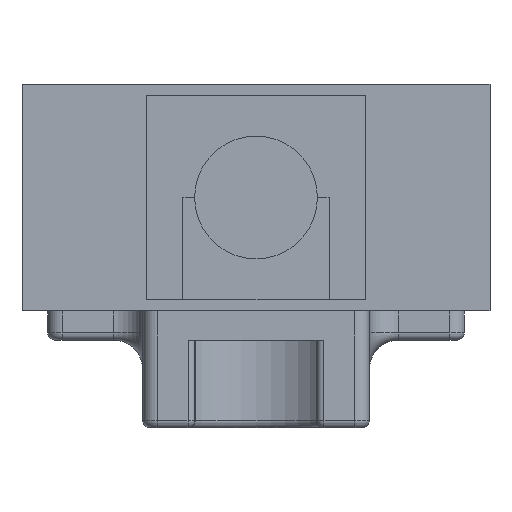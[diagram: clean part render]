
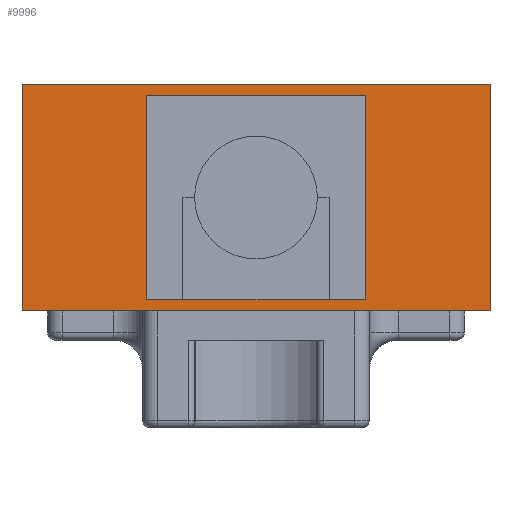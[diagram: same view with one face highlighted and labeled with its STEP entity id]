
A CAD part, front view. The second image highlights one B-rep face of the part: STEP entity #9996.
In plain terms, the highlighted planar face has unit normal (0, -1, 0).
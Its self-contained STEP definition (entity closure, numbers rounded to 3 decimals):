
#110 = LINE ( 'NONE', #2053, #718 ) ;
#172 = DIRECTION ( 'NONE',  ( 0., 0., 1. ) ) ;
#254 = DIRECTION ( 'NONE',  ( 1., 0., 0. ) ) ;
#430 = CARTESIAN_POINT ( 'NONE',  ( 16., -72.75, 7.75 ) ) ;
#718 = VECTOR ( 'NONE', #172, 1000. ) ;
#826 = CARTESIAN_POINT ( 'NONE',  ( -7., -72.75, 6.25 ) ) ;
#862 = VERTEX_POINT ( 'NONE', #8487 ) ;
#1070 = LINE ( 'NONE', #5583, #12573 ) ;
#1086 = VECTOR ( 'NONE', #254, 1000. ) ;
#1410 = VECTOR ( 'NONE', #8125, 1000. ) ;
#1792 = CARTESIAN_POINT ( 'NONE',  ( -7., -72.75, -6.25 ) ) ;
#2053 = CARTESIAN_POINT ( 'NONE',  ( 7., -72.75, 6.25 ) ) ;
#2126 = DIRECTION ( 'NONE',  ( -1., 0., 0. ) ) ;
#2973 = CARTESIAN_POINT ( 'NONE',  ( -7., -72.75, -6.25 ) ) ;
#3081 = EDGE_CURVE ( 'NONE', #9705, #11842, #10302, .T. ) ;
#3174 = LINE ( 'NONE', #10774, #1086 ) ;
#3353 = PLANE ( 'NONE',  #11990 ) ;
#3933 = VECTOR ( 'NONE', #7046, 1000. ) ;
#4775 = EDGE_CURVE ( 'NONE', #862, #10606, #4934, .T. ) ;
#4783 = CARTESIAN_POINT ( 'NONE',  ( 16., -72.75, -7.75 ) ) ;
#4818 = LINE ( 'NONE', #2973, #11857 ) ;
#4819 = LINE ( 'NONE', #10697, #7183 ) ;
#4934 = LINE ( 'NONE', #11002, #3933 ) ;
#5015 = EDGE_CURVE ( 'NONE', #862, #5404, #3174, .T. ) ;
#5404 = VERTEX_POINT ( 'NONE', #430 ) ;
#5438 = DIRECTION ( 'NONE',  ( 0., 1., 0. ) ) ;
#5583 = CARTESIAN_POINT ( 'NONE',  ( 7., -72.75, 6.25 ) ) ;
#5633 = EDGE_CURVE ( 'NONE', #6415, #9903, #110, .T. ) ;
#5843 = EDGE_CURVE ( 'NONE', #5404, #11837, #10295, .T. ) ;
#5978 = ORIENTED_EDGE ( 'NONE', *, *, #5015, .F. ) ;
#6068 = DIRECTION ( 'NONE',  ( 1., 0., 0. ) ) ;
#6073 = ORIENTED_EDGE ( 'NONE', *, *, #5843, .F. ) ;
#6111 = CARTESIAN_POINT ( 'NONE',  ( -16., -72.75, -7.75 ) ) ;
#6330 = DIRECTION ( 'NONE',  ( 0., 0., 1. ) ) ;
#6360 = ORIENTED_EDGE ( 'NONE', *, *, #4775, .T. ) ;
#6397 = FACE_OUTER_BOUND ( 'NONE', #7199, .T. ) ;
#6415 = VERTEX_POINT ( 'NONE', #9618 ) ;
#6417 = ORIENTED_EDGE ( 'NONE', *, *, #12352, .F. ) ;
#6972 = ORIENTED_EDGE ( 'NONE', *, *, #11291, .F. ) ;
#7046 = DIRECTION ( 'NONE',  ( 0., 0., -1. ) ) ;
#7118 = CARTESIAN_POINT ( 'NONE',  ( 7., -72.75, 6.25 ) ) ;
#7151 = EDGE_CURVE ( 'NONE', #10606, #11837, #4819, .T. ) ;
#7183 = VECTOR ( 'NONE', #9544, 1000. ) ;
#7199 = EDGE_LOOP ( 'NONE', ( #7600, #6073, #5978, #6360 ) ) ;
#7233 = CARTESIAN_POINT ( 'NONE',  ( -16., -72.75, 7.75 ) ) ;
#7600 = ORIENTED_EDGE ( 'NONE', *, *, #7151, .T. ) ;
#8125 = DIRECTION ( 'NONE',  ( 0., 0., -1. ) ) ;
#8487 = CARTESIAN_POINT ( 'NONE',  ( -16., -72.75, 7.75 ) ) ;
#9077 = CARTESIAN_POINT ( 'NONE',  ( -7., -72.75, -6.25 ) ) ;
#9227 = VECTOR ( 'NONE', #11252, 1000. ) ;
#9520 = CARTESIAN_POINT ( 'NONE',  ( 16., -72.75, 7.75 ) ) ;
#9544 = DIRECTION ( 'NONE',  ( 1., 0., 0. ) ) ;
#9618 = CARTESIAN_POINT ( 'NONE',  ( 7., -72.75, -6.25 ) ) ;
#9705 = VERTEX_POINT ( 'NONE', #826 ) ;
#9903 = VERTEX_POINT ( 'NONE', #7118 ) ;
#9996 = ADVANCED_FACE ( 'NONE', ( #12081, #6397 ), #3353, .F. ) ;
#10295 = LINE ( 'NONE', #9520, #9227 ) ;
#10302 = LINE ( 'NONE', #9077, #1410 ) ;
#10606 = VERTEX_POINT ( 'NONE', #6111 ) ;
#10697 = CARTESIAN_POINT ( 'NONE',  ( -16., -72.75, -7.75 ) ) ;
#10774 = CARTESIAN_POINT ( 'NONE',  ( -16., -72.75, 7.75 ) ) ;
#10859 = ORIENTED_EDGE ( 'NONE', *, *, #3081, .F. ) ;
#11002 = CARTESIAN_POINT ( 'NONE',  ( -16., -72.75, 7.75 ) ) ;
#11252 = DIRECTION ( 'NONE',  ( 0., 0., -1. ) ) ;
#11291 = EDGE_CURVE ( 'NONE', #11842, #6415, #4818, .T. ) ;
#11837 = VERTEX_POINT ( 'NONE', #4783 ) ;
#11842 = VERTEX_POINT ( 'NONE', #1792 ) ;
#11857 = VECTOR ( 'NONE', #6068, 1000. ) ;
#11990 = AXIS2_PLACEMENT_3D ( 'NONE', #7233, #5438, #6330 ) ;
#12081 = FACE_BOUND ( 'NONE', #12132, .T. ) ;
#12094 = ORIENTED_EDGE ( 'NONE', *, *, #5633, .F. ) ;
#12132 = EDGE_LOOP ( 'NONE', ( #10859, #6417, #12094, #6972 ) ) ;
#12352 = EDGE_CURVE ( 'NONE', #9903, #9705, #1070, .T. ) ;
#12573 = VECTOR ( 'NONE', #2126, 1000. ) ;
